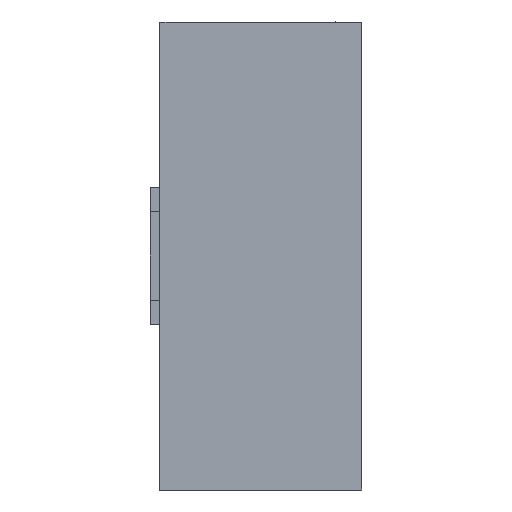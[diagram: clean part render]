
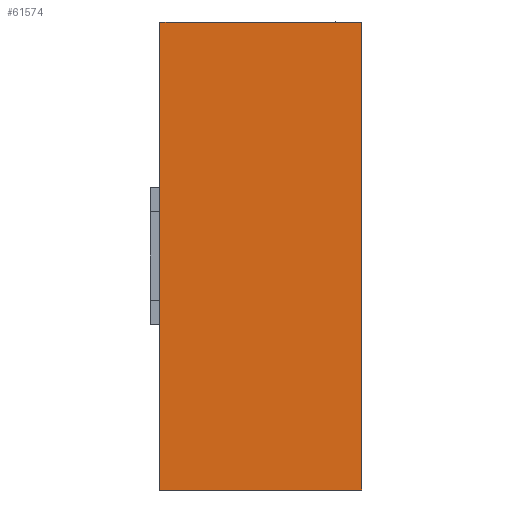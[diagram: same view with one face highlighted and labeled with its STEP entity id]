
A CAD part, left-side view. The second image highlights one B-rep face of the part: STEP entity #61574.
In plain terms, the highlighted planar face has unit normal (-1, 0, 0).
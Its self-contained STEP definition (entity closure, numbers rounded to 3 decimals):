
#46736 = DIRECTION ( 'NONE',  ( 0., 0., -1. ) ) ;
#46737 = DIRECTION ( 'NONE',  ( 1., 0., 0. ) ) ;
#46738 = CARTESIAN_POINT ( 'NONE',  ( 0., 16.569, 14.5 ) ) ;
#46739 = AXIS2_PLACEMENT_3D ( 'NONE', #46738, #46737, #46736 ) ;
#46740 = PLANE ( 'NONE',  #46739 ) ;
#46741 = FACE_OUTER_BOUND ( 'NONE', #61579, .T. ) ;
#46844 = DIRECTION ( 'NONE',  ( 0., 0., -1. ) ) ;
#46845 = VECTOR ( 'NONE', #46844, 1000. ) ;
#46846 = CARTESIAN_POINT ( 'NONE',  ( 0., 10.069, 0. ) ) ;
#46847 = LINE ( 'NONE', #46846, #46845 ) ;
#53231 = EDGE_CURVE ( 'NONE', #75155, #53250, #105234, .T. ) ;
#53250 = VERTEX_POINT ( 'NONE', #105217 ) ;
#61398 = ORIENTED_EDGE ( 'NONE', *, *, #53231, .F. ) ;
#61561 = ORIENTED_EDGE ( 'NONE', *, *, #74779, .F. ) ;
#61565 = ORIENTED_EDGE ( 'NONE', *, *, #61690, .F. ) ;
#61574 = ADVANCED_FACE ( 'NONE', ( #46741 ), #46740, .F. ) ;
#61579 = EDGE_LOOP ( 'NONE', ( #61583, #61561, #61565, #61398 ) ) ;
#61583 = ORIENTED_EDGE ( 'NONE', *, *, #75156, .F. ) ;
#61690 = EDGE_CURVE ( 'NONE', #53250, #74819, #46847, .T. ) ;
#74779 = EDGE_CURVE ( 'NONE', #74819, #74785, #91384, .T. ) ;
#74785 = VERTEX_POINT ( 'NONE', #91380 ) ;
#74819 = VERTEX_POINT ( 'NONE', #91556 ) ;
#75155 = VERTEX_POINT ( 'NONE', #93131 ) ;
#75156 = EDGE_CURVE ( 'NONE', #74785, #75155, #93130, .T. ) ;
#91380 = CARTESIAN_POINT ( 'NONE',  ( 0., 22.569, 0. ) ) ;
#91381 = DIRECTION ( 'NONE',  ( 0., 1., 0. ) ) ;
#91382 = VECTOR ( 'NONE', #91381, 1000. ) ;
#91383 = CARTESIAN_POINT ( 'NONE',  ( 0., 15.569, 0. ) ) ;
#91384 = LINE ( 'NONE', #91383, #91382 ) ;
#91556 = CARTESIAN_POINT ( 'NONE',  ( 0., 10.069, 0. ) ) ;
#93116 = DIRECTION ( 'NONE',  ( 0., 0., 1. ) ) ;
#93117 = VECTOR ( 'NONE', #93116, 1000. ) ;
#93128 = CARTESIAN_POINT ( 'NONE',  ( 0., 22.569, 14.5 ) ) ;
#93130 = LINE ( 'NONE', #93128, #93117 ) ;
#93131 = CARTESIAN_POINT ( 'NONE',  ( 0., 22.569, 29. ) ) ;
#105217 = CARTESIAN_POINT ( 'NONE',  ( 0., 10.069, 29. ) ) ;
#105231 = DIRECTION ( 'NONE',  ( 0., -1., 0. ) ) ;
#105232 = VECTOR ( 'NONE', #105231, 1000. ) ;
#105233 = CARTESIAN_POINT ( 'NONE',  ( 0., 15.569, 29. ) ) ;
#105234 = LINE ( 'NONE', #105233, #105232 ) ;
